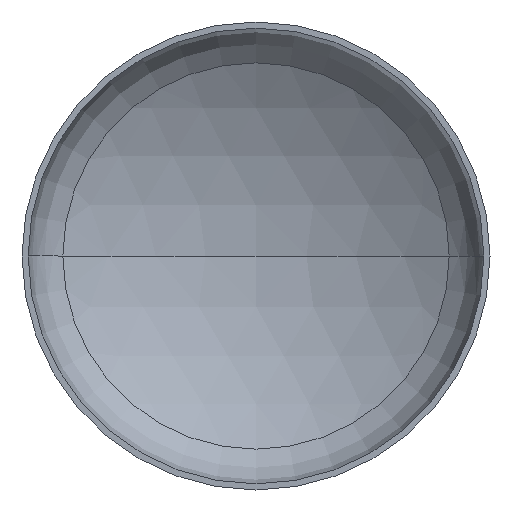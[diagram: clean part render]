
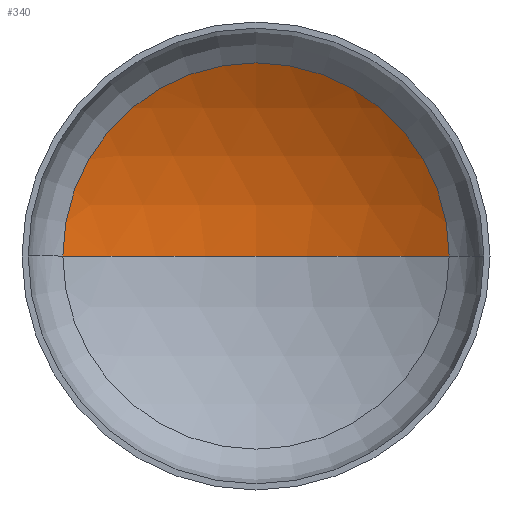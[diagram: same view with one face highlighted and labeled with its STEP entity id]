
A CAD part, front view. The second image highlights one B-rep face of the part: STEP entity #340.
In plain terms, the highlighted spherical face has radius 1280 mm.
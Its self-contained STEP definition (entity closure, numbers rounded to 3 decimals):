
#1 = EDGE_LOOP ( 'NONE', ( #94, #59, #67 ) ) ;
#2 = AXIS2_PLACEMENT_3D ( 'NONE', #133, #144, #146 ) ;
#7 = AXIS2_PLACEMENT_3D ( 'NONE', #210, #377, #361 ) ;
#11 = AXIS2_PLACEMENT_3D ( 'NONE', #362, #283, #175 ) ;
#20 = VERTEX_POINT ( 'NONE', #284 ) ;
#59 = ORIENTED_EDGE ( 'NONE', *, *, #353, .T. ) ;
#62 = AXIS2_PLACEMENT_3D ( 'NONE', #364, #317, #151 ) ;
#67 = ORIENTED_EDGE ( 'NONE', *, *, #135, .T. ) ;
#83 = VERTEX_POINT ( 'NONE', #220 ) ;
#88 = VERTEX_POINT ( 'NONE', #217 ) ;
#94 = ORIENTED_EDGE ( 'NONE', *, *, #355, .F. ) ;
#133 = CARTESIAN_POINT ( 'NONE',  ( 0., -816.605, 0. ) ) ;
#135 = EDGE_CURVE ( 'NONE', #20, #88, #258, .T. ) ;
#144 = DIRECTION ( 'NONE',  ( 0., 0., 1. ) ) ;
#146 = DIRECTION ( 'NONE',  ( 1., 0., 0. ) ) ;
#149 = CIRCLE ( 'NONE', #2, 1280. ) ;
#151 = DIRECTION ( 'NONE',  ( 1., 0., 0. ) ) ;
#175 = DIRECTION ( 'NONE',  ( -1., 0., 0. ) ) ;
#210 = CARTESIAN_POINT ( 'NONE',  ( 0., -816.605, 0. ) ) ;
#217 = CARTESIAN_POINT ( 'NONE',  ( -660.406, 279.873, 0. ) ) ;
#220 = CARTESIAN_POINT ( 'NONE',  ( 0., 463.395, 0. ) ) ;
#258 = CIRCLE ( 'NONE', #62, 660.406 ) ;
#283 = DIRECTION ( 'NONE',  ( 0., 0., -1. ) ) ;
#284 = CARTESIAN_POINT ( 'NONE',  ( 660.406, 279.873, 0. ) ) ;
#291 = FACE_OUTER_BOUND ( 'NONE', #1, .T. ) ;
#317 = DIRECTION ( 'NONE',  ( 0., -1., 0. ) ) ;
#340 = ADVANCED_FACE ( 'NONE', ( #291 ), #398, .F. ) ;
#341 = CIRCLE ( 'NONE', #11, 1280. ) ;
#353 = EDGE_CURVE ( 'NONE', #83, #20, #341, .T. ) ;
#355 = EDGE_CURVE ( 'NONE', #83, #88, #149, .T. ) ;
#361 = DIRECTION ( 'NONE',  ( -1., 0., 0. ) ) ;
#362 = CARTESIAN_POINT ( 'NONE',  ( 0., -816.605, 0. ) ) ;
#364 = CARTESIAN_POINT ( 'NONE',  ( 0., 279.873, 0. ) ) ;
#377 = DIRECTION ( 'NONE',  ( 0., 0., -1. ) ) ;
#398 = SPHERICAL_SURFACE ( 'NONE', #7, 1280. ) ;
